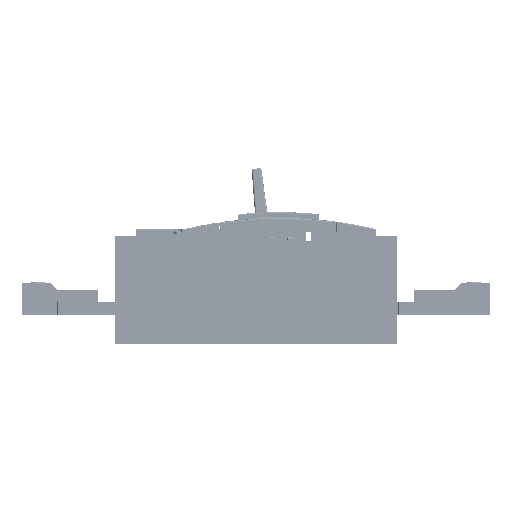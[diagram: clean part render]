
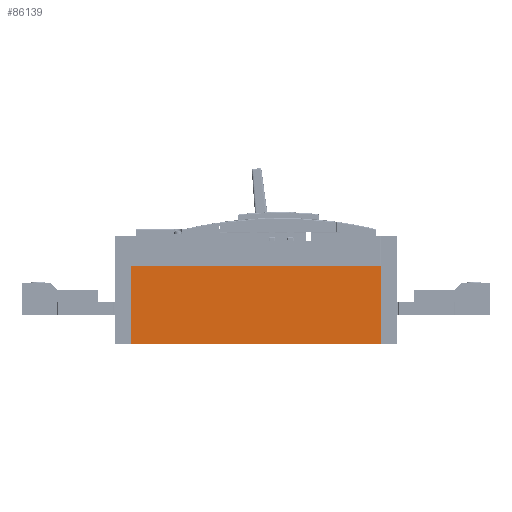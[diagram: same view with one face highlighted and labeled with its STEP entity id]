
A CAD part, left-side view. The second image highlights one B-rep face of the part: STEP entity #86139.
In plain terms, the highlighted planar face has unit normal (-1, 0, 0).
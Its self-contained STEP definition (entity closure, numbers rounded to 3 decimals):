
#40595 = CARTESIAN_POINT ( 'NONE',  ( -185.989, -171.523, 59.794 ) ) ;
#63003 = VERTEX_POINT ( 'NONE', #145740 ) ;
#63006 = VERTEX_POINT ( 'NONE', #145735 ) ;
#63134 = EDGE_CURVE ( 'NONE', #63006, #63003, #146350, .T. ) ;
#63933 = VERTEX_POINT ( 'NONE', #40595 ) ;
#64148 = VERTEX_POINT ( 'NONE', #124526 ) ;
#64207 = EDGE_CURVE ( 'NONE', #64148, #63933, #124941, .T. ) ;
#85893 = EDGE_LOOP ( 'NONE', ( #85958, #85977, #87429, #87451 ) ) ;
#85958 = ORIENTED_EDGE ( 'NONE', *, *, #86125, .T. ) ;
#85977 = ORIENTED_EDGE ( 'NONE', *, *, #63134, .T. ) ;
#86125 = EDGE_CURVE ( 'NONE', #64148, #63006, #211661, .T. ) ;
#86139 = ADVANCED_FACE ( 'NONE', ( #211616 ), #211751, .F. ) ;
#87429 = ORIENTED_EDGE ( 'NONE', *, *, #87435, .F. ) ;
#87435 = EDGE_CURVE ( 'NONE', #63933, #63003, #214312, .T. ) ;
#87451 = ORIENTED_EDGE ( 'NONE', *, *, #64207, .F. ) ;
#124526 = CARTESIAN_POINT ( 'NONE',  ( -185.989, 138.477, 59.794 ) ) ;
#124935 = DIRECTION ( 'NONE',  ( 0., -1., 0. ) ) ;
#124936 = VECTOR ( 'NONE', #124935, 1000. ) ;
#124939 = CARTESIAN_POINT ( 'NONE',  ( -185.989, -171.523, 59.794 ) ) ;
#124941 = LINE ( 'NONE', #124939, #124936 ) ;
#145735 = CARTESIAN_POINT ( 'NONE',  ( -185.989, 138.477, -36.706 ) ) ;
#145740 = CARTESIAN_POINT ( 'NONE',  ( -185.989, -171.523, -36.706 ) ) ;
#146345 = DIRECTION ( 'NONE',  ( 0., -1., 0. ) ) ;
#146346 = VECTOR ( 'NONE', #146345, 1000. ) ;
#146349 = CARTESIAN_POINT ( 'NONE',  ( -185.989, -171.523, -36.706 ) ) ;
#146350 = LINE ( 'NONE', #146349, #146346 ) ;
#211616 = FACE_OUTER_BOUND ( 'NONE', #85893, .T. ) ;
#211655 = DIRECTION ( 'NONE',  ( 0., 0., -1. ) ) ;
#211656 = VECTOR ( 'NONE', #211655, 1000. ) ;
#211659 = CARTESIAN_POINT ( 'NONE',  ( -185.989, 138.477, 59.794 ) ) ;
#211661 = LINE ( 'NONE', #211659, #211656 ) ;
#211731 = DIRECTION ( 'NONE',  ( 0., 0., -1. ) ) ;
#211734 = DIRECTION ( 'NONE',  ( 1., 0., 0. ) ) ;
#211736 = CARTESIAN_POINT ( 'NONE',  ( -185.989, -171.523, 59.794 ) ) ;
#211738 = AXIS2_PLACEMENT_3D ( 'NONE', #211736, #211734, #211731 ) ;
#211751 = PLANE ( 'NONE',  #211738 ) ;
#214307 = DIRECTION ( 'NONE',  ( 0., 0., -1. ) ) ;
#214309 = VECTOR ( 'NONE', #214307, 1000. ) ;
#214311 = CARTESIAN_POINT ( 'NONE',  ( -185.989, -171.523, 59.794 ) ) ;
#214312 = LINE ( 'NONE', #214311, #214309 ) ;
